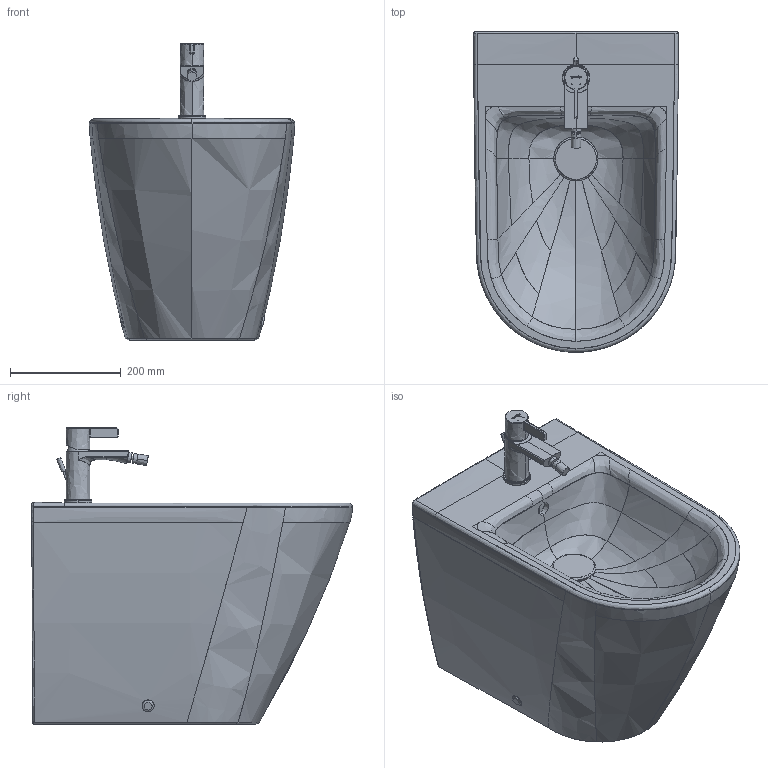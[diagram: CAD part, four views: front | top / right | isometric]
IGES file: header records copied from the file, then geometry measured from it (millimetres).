
Global section: file name: d:\users\matthias.isele\Desktop\planungsdaten_erstellen\Keramik\D-Neo\229510\229510.igs; native system: Rhinoceros ( Sep 13 2016 ); preprocessor: Trout Lake IGES 012 Sep 13 2016; date: 210621.074450; units: millimetre
Bounding box: 371.26 x 579.99 x 536.13 mm (x, y, z)
Surface area: 1309789.1 mm2 (no closed solid volume)
Topology: 0 solids, 0 shells, 652 faces, 4545 edges, 4528 vertices
Faces by surface type: bspline 652
